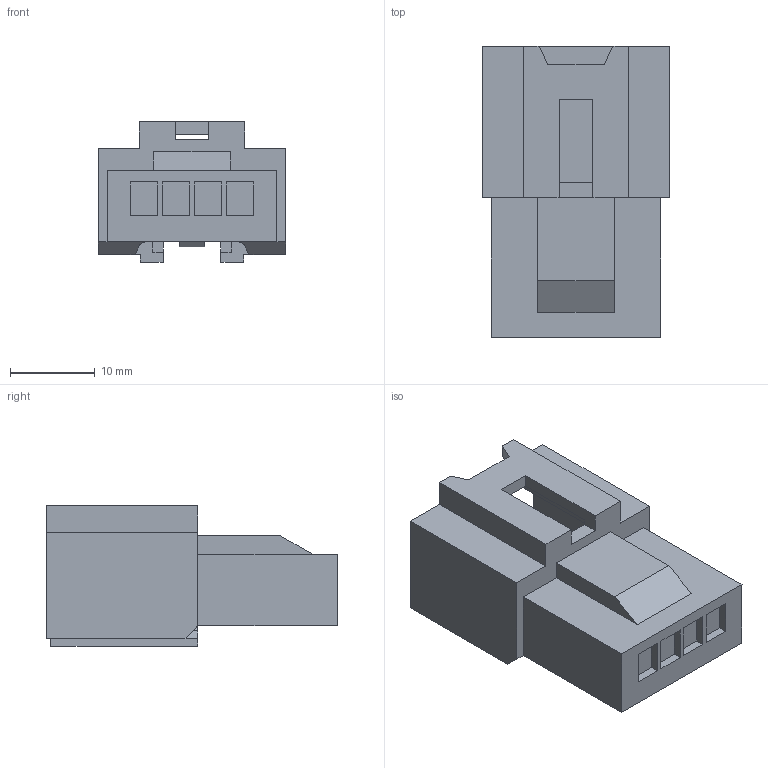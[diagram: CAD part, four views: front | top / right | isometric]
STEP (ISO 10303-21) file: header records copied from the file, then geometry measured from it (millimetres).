
FILE_DESCRIPTION(('CATIA V5 STEP','CAx-IF Rec.Pracs.--- Model Styling and Organization---1.4--- 2014-01-23'),'2;1');
FILE_NAME('\\fss02.ad.sws.co.jp\fs100016\第3設計部\共有\コネクタ第1Gr\【91】一時保管\★カタログ用参考資料\簡易３D\stp_送付用\6098-6968.stp','2024-10-07T06:39:35+00:00',('none'),('none'),'CATIA Version 5-6 Release 2018 SP4','CATIA V5 STEP AP214','none');
FILE_SCHEMA(('AUTOMOTIVE_DESIGN { 1 0 10303 214 1 1 1 1 }'));
Length unit declared in the file: millimetre
Products named in the file (1): 6098-6968
Bounding box: 22.1 x 34.25 x 16.55 mm (x, y, z)
Volume: 5351.6 mm3; surface area: 4294.1 mm2
Topology: 1 solids, 1 shells, 119 faces, 326 edges, 216 vertices
Faces by surface type: plane 115, revolution 4
Entity records: 3567 total; most frequent: CARTESIAN_POINT 669, ORIENTED_EDGE 652, DIRECTION 483, EDGE_CURVE 326, VECTOR 316, LINE 316, VERTEX_POINT 216, EDGE_LOOP 128
